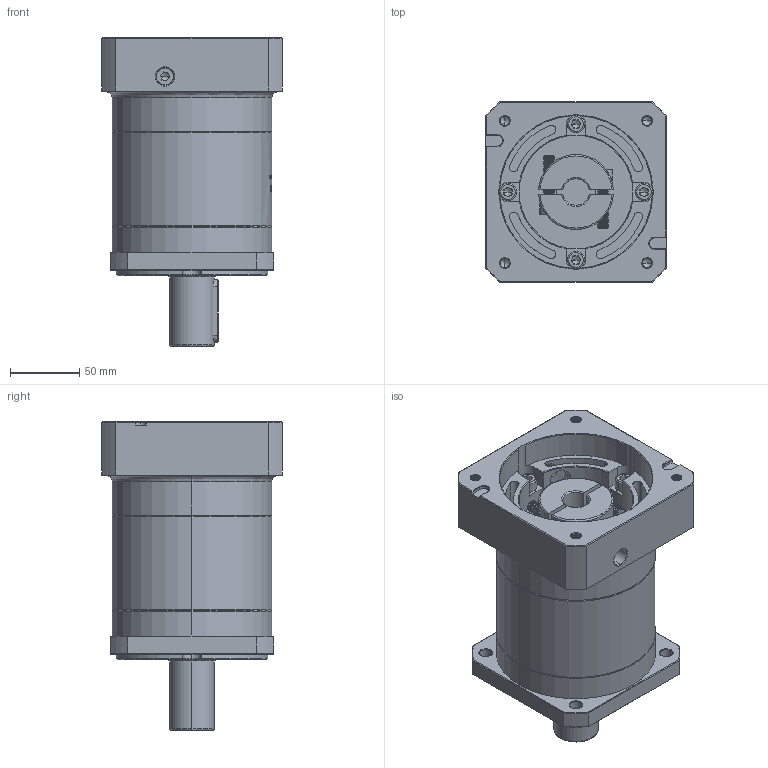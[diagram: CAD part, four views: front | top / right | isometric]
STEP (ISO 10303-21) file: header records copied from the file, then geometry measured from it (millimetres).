
FILE_DESCRIPTION (( 'STEP AP214' ), '1' );
FILE_NAME ('ZF120A-D32-L2-19-110-145-M8.step', '2023-03-07T09:33:21', ( '' ), ( '' ), 'SwSTEP 2.0', 'SolidWorks 2016', '' );
FILE_SCHEMA (( 'AUTOMOTIVE_DESIGN' ));
Length unit declared in the file: millimetre
Products named in the file (1): ZF120A-D32-L2-19-110-145-M8
Bounding box: 130 x 130 x 222.5 mm (x, y, z)
Volume: 1768686.5 mm3; surface area: 193309.8 mm2
Topology: 6 solids, 6 shells, 2001 faces, 5276 edges, 3367 vertices
Faces by surface type: plane 883, cylinder 449, cone 327, bspline 323, torus 19
Entity records: 110609 total; most frequent: CARTESIAN_POINT 42939, ORIENTED_EDGE 10492, DIRECTION 8167, EDGE_CURVE 5246, VERTEX_POINT 3367, VECTOR 2823, LINE 2823, AXIS2_PLACEMENT_3D 2672
